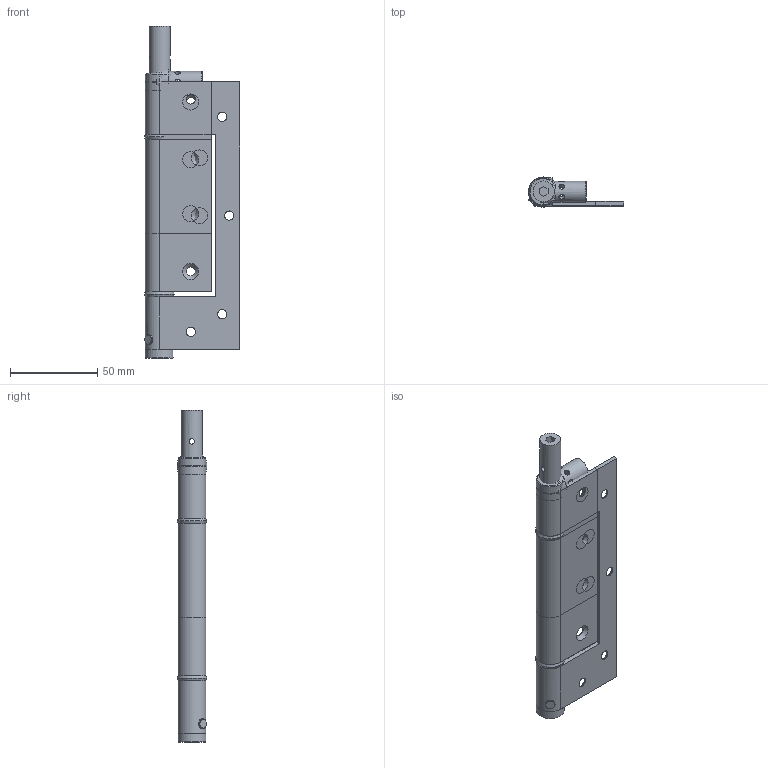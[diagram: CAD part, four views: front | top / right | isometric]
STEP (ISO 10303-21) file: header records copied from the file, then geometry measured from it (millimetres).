
FILE_DESCRIPTION( ( 'Unknown' ), '1' );
FILE_NAME( 'N:/HoKon Zeichnungen/_Kataloge Fremd/Justor/3D-Daten/717.014.0.0 Conjunt Frontissa ST 150/717.014.0.0 Conjunt Frontissa ST 150.stp', 'Unknown', ( 'Unknown' ), ( 'Unknown' ), 'PSStep 14.0', 'Unknown', ' ' );
FILE_SCHEMA( ( 'AUTOMOTIVE_DESIGN { 1 0 10303 214 1 1 1 1 }' ) );
Length unit declared in the file: millimetre
Products named in the file (8): Assem1; 063.009.1.2 56302.1 Pala ST 150x40 Gran; 063.009.2.2 56302.2 Pala ST 150x40 Petita; 063.002.1.1 56301 Eix ST Inox; 059.010.0.2 76305 Volandera nylon 16x12x3; 057.028.0.0 55719 Tap Frontissa -Foradat-; 057.020.0.2 Passador Frontisses 3 x 9.5; 063.008.0.0 56303 Embellidor ST Alumini
Bounding box: 54.55 x 17.13 x 190 mm (x, y, z)
Volume: 71356.5 mm3; surface area: 62889.2 mm2
Topology: 15 solids, 15 shells, 281 faces, 720 edges, 457 vertices
Faces by surface type: plane 122, cylinder 107, cone 40, sphere 8, torus 4
Full cylindrical faces by diameter (mm): 2.5 x2, 3 x4, 3.1 x16, 4 x2, 5.2 x6, 5.3 x10, 5.5 x2, 11.6 x2, 12 x4, 12.05 x6, 12.2 x2, 12.361 x3, 16 x4
Entity records: 5709 total; most frequent: CARTESIAN_POINT 1450, DIRECTION 647, ORIENTED_EDGE 540, EDGE_CURVE 270, AXIS2_PLACEMENT_3D 262, EDGE_LOOP 235, VERTEX_POINT 199, FACE_OUTER_BOUND 171
